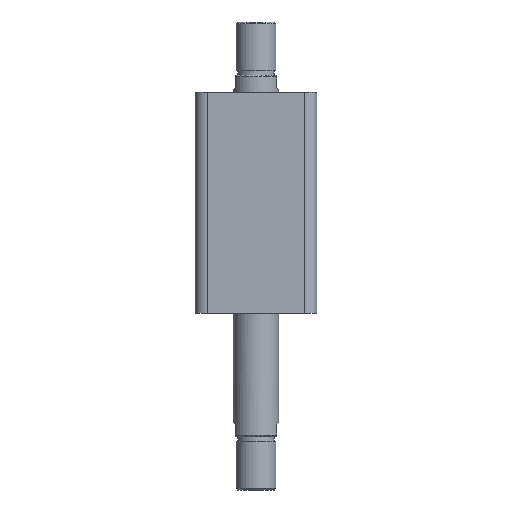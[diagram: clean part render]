
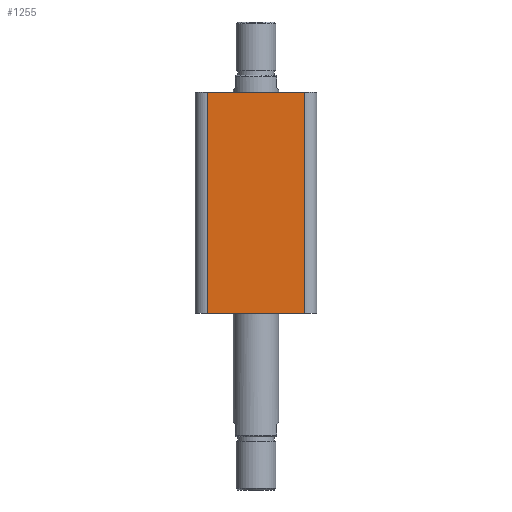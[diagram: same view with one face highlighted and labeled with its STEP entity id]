
A CAD part, front view. The second image highlights one B-rep face of the part: STEP entity #1255.
In plain terms, the highlighted planar face has unit normal (0, -1, 0).
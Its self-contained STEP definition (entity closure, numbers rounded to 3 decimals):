
#152 = FACE_OUTER_BOUND ( 'NONE', #694, .T. ) ;
#372 = LINE ( 'NONE', #1502, #375 ) ;
#373 = LINE ( 'NONE', #1501, #377 ) ;
#375 = VECTOR ( 'NONE', #1483, 1000. ) ;
#376 = LINE ( 'NONE', #1507, #379 ) ;
#377 = VECTOR ( 'NONE', #1506, 1000. ) ;
#378 = LINE ( 'NONE', #1509, #381 ) ;
#379 = VECTOR ( 'NONE', #1508, 1000. ) ;
#381 = VECTOR ( 'NONE', #1510, 1000. ) ;
#694 = EDGE_LOOP ( 'NONE', ( #855, #854, #853, #852 ) ) ;
#852 = ORIENTED_EDGE ( 'NONE', *, *, #2272, .T. ) ;
#853 = ORIENTED_EDGE ( 'NONE', *, *, #2273, .T. ) ;
#854 = ORIENTED_EDGE ( 'NONE', *, *, #2274, .T. ) ;
#855 = ORIENTED_EDGE ( 'NONE', *, *, #2275, .F. ) ;
#1112 = CARTESIAN_POINT ( 'NONE',  ( -32., -40., 0. ) ) ;
#1117 = CARTESIAN_POINT ( 'NONE',  ( -32., -40., 145. ) ) ;
#1255 = ADVANCED_FACE ( 'NONE', ( #152 ), #2780, .F. ) ;
#1483 = DIRECTION ( 'NONE',  ( 0., 0., 1. ) ) ;
#1501 = CARTESIAN_POINT ( 'NONE',  ( -40., -40., 0. ) ) ;
#1502 = CARTESIAN_POINT ( 'NONE',  ( 32., -40., 145. ) ) ;
#1506 = DIRECTION ( 'NONE',  ( 1., 0., 0. ) ) ;
#1507 = CARTESIAN_POINT ( 'NONE',  ( -32., -40., 145. ) ) ;
#1508 = DIRECTION ( 'NONE',  ( 0., 0., -1. ) ) ;
#1509 = CARTESIAN_POINT ( 'NONE',  ( -40., -40., 145. ) ) ;
#1510 = DIRECTION ( 'NONE',  ( 1., 0., 0. ) ) ;
#1841 = VERTEX_POINT ( 'NONE', #3081 ) ;
#1855 = VERTEX_POINT ( 'NONE', #3092 ) ;
#2272 = EDGE_CURVE ( 'NONE', #1841, #1855, #372, .T. ) ;
#2273 = EDGE_CURVE ( 'NONE', #3443, #1841, #373, .T. ) ;
#2274 = EDGE_CURVE ( 'NONE', #3442, #3443, #376, .T. ) ;
#2275 = EDGE_CURVE ( 'NONE', #3442, #1855, #378, .T. ) ;
#2399 = AXIS2_PLACEMENT_3D ( 'NONE', #2778, #2783, #2784 ) ;
#2778 = CARTESIAN_POINT ( 'NONE',  ( -40., -40., 145. ) ) ;
#2780 = PLANE ( 'NONE',  #2399 ) ;
#2783 = DIRECTION ( 'NONE',  ( 0., 1., 0. ) ) ;
#2784 = DIRECTION ( 'NONE',  ( 0., 0., 1. ) ) ;
#3081 = CARTESIAN_POINT ( 'NONE',  ( 32., -40., 0. ) ) ;
#3092 = CARTESIAN_POINT ( 'NONE',  ( 32., -40., 145. ) ) ;
#3442 = VERTEX_POINT ( 'NONE', #1117 ) ;
#3443 = VERTEX_POINT ( 'NONE', #1112 ) ;
